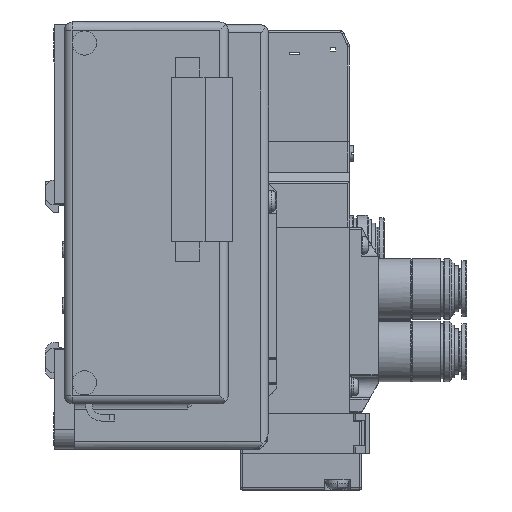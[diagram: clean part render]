
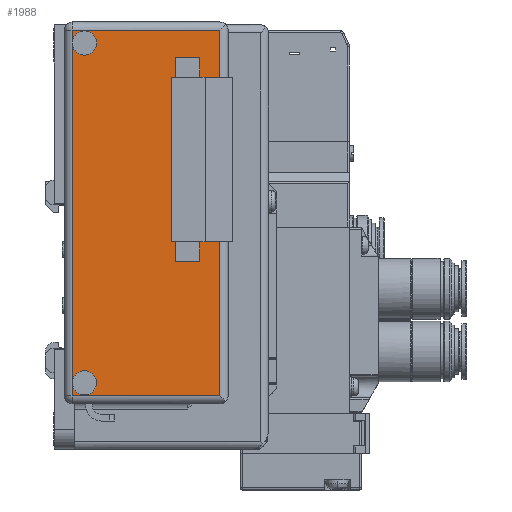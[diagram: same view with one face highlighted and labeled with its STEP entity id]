
A CAD part, left-side view. The second image highlights one B-rep face of the part: STEP entity #1988.
In plain terms, the highlighted planar face has unit normal (-1, 0, 0).
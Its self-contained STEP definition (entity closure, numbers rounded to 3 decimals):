
#1988=ADVANCED_FACE('',(#14346,#14347),#14345,.F.);
#14345=PLANE('',#26407);
#14346=FACE_OUTER_BOUND('',#26408,.T.);
#14347=FACE_BOUND('',#26409,.T.);
#26404=CARTESIAN_POINT('',(-50.,-49.65,72.335));
#26405=DIRECTION('',(1.,0.,0.));
#26406=DIRECTION('',(0.,0.,-1.));
#26407=AXIS2_PLACEMENT_3D('',#26404,#26405,#26406);
#26408=EDGE_LOOP('',(#35882,#35883,#35884,#35885,#35886,#35887,#35888,#35889,#35890,#35891,#35892,#35893));
#26409=EDGE_LOOP('',(#35894,#35895,#35896,#35897,#35898,#35899,#35900,#35901));
#35882=ORIENTED_EDGE('',*,*,#41464,.T.);
#35883=ORIENTED_EDGE('',*,*,#41465,.T.);
#35884=ORIENTED_EDGE('',*,*,#41466,.T.);
#35885=ORIENTED_EDGE('',*,*,#41467,.T.);
#35886=ORIENTED_EDGE('',*,*,#41468,.F.);
#35887=ORIENTED_EDGE('',*,*,#41469,.F.);
#35888=ORIENTED_EDGE('',*,*,#41470,.F.);
#35889=ORIENTED_EDGE('',*,*,#41471,.T.);
#35890=ORIENTED_EDGE('',*,*,#41472,.F.);
#35891=ORIENTED_EDGE('',*,*,#41473,.F.);
#35892=ORIENTED_EDGE('',*,*,#41474,.F.);
#35893=ORIENTED_EDGE('',*,*,#41475,.T.);
#35894=ORIENTED_EDGE('',*,*,#41476,.F.);
#35895=ORIENTED_EDGE('',*,*,#41477,.T.);
#35896=ORIENTED_EDGE('',*,*,#41478,.T.);
#35897=ORIENTED_EDGE('',*,*,#41479,.T.);
#35898=ORIENTED_EDGE('',*,*,#41480,.F.);
#35899=ORIENTED_EDGE('',*,*,#41481,.T.);
#35900=ORIENTED_EDGE('',*,*,#41482,.T.);
#35901=ORIENTED_EDGE('',*,*,#41483,.F.);
#41464=EDGE_CURVE('',#63380,#63381,#63382,.T.);
#41465=EDGE_CURVE('',#63381,#63388,#63389,.T.);
#41466=EDGE_CURVE('',#63388,#63395,#63396,.T.);
#41467=EDGE_CURVE('',#63395,#63402,#63403,.T.);
#41468=EDGE_CURVE('',#63409,#63402,#63410,.T.);
#41469=EDGE_CURVE('',#63416,#63409,#63417,.T.);
#41470=EDGE_CURVE('',#63402,#63416,#63423,.T.);
#41471=EDGE_CURVE('',#63402,#63429,#63430,.T.);
#41472=EDGE_CURVE('',#63436,#63429,#63437,.T.);
#41473=EDGE_CURVE('',#63443,#63436,#63444,.T.);
#41474=EDGE_CURVE('',#63429,#63443,#63450,.T.);
#41475=EDGE_CURVE('',#63429,#63380,#63456,.T.);
#41476=EDGE_CURVE('',#63462,#63463,#63464,.T.);
#41477=EDGE_CURVE('',#63462,#63470,#63471,.T.);
#41478=EDGE_CURVE('',#63470,#63477,#63478,.T.);
#41479=EDGE_CURVE('',#63477,#63484,#63485,.T.);
#41480=EDGE_CURVE('',#63491,#63484,#63492,.T.);
#41481=EDGE_CURVE('',#63491,#63498,#63499,.T.);
#41482=EDGE_CURVE('',#63498,#63505,#63506,.T.);
#41483=EDGE_CURVE('',#63463,#63505,#63512,.T.);
#63380=VERTEX_POINT('',#83593);
#63381=VERTEX_POINT('',#83594);
#63382=LINE('',#83595,#83596);
#63388=VERTEX_POINT('',#83598);
#63389=LINE('',#83599,#83600);
#63395=VERTEX_POINT('',#83602);
#63396=LINE('',#83603,#83604);
#63402=VERTEX_POINT('',#83606);
#63403=LINE('',#83607,#83608);
#63409=VERTEX_POINT('',#83610);
#63410=CIRCLE('',#83614,3.);
#63416=VERTEX_POINT('',#83615);
#63417=CIRCLE('',#83619,3.);
#63423=CIRCLE('',#83623,3.);
#63429=VERTEX_POINT('',#83624);
#63430=LINE('',#83625,#83626);
#63436=VERTEX_POINT('',#83628);
#63437=CIRCLE('',#83632,3.);
#63443=VERTEX_POINT('',#83633);
#63444=CIRCLE('',#83637,3.);
#63450=CIRCLE('',#83641,3.);
#63456=LINE('',#83642,#83643);
#63462=VERTEX_POINT('',#83645);
#63463=VERTEX_POINT('',#83646);
#63464=LINE('',#83647,#83648);
#63470=VERTEX_POINT('',#83650);
#63471=LINE('',#83651,#83652);
#63477=VERTEX_POINT('',#83654);
#63478=LINE('',#83655,#83656);
#63484=VERTEX_POINT('',#83658);
#63485=LINE('',#83659,#83660);
#63491=VERTEX_POINT('',#83662);
#63492=LINE('',#83663,#83664);
#63498=VERTEX_POINT('',#83666);
#63499=LINE('',#83667,#83668);
#63505=VERTEX_POINT('',#83670);
#63506=LINE('',#83671,#83672);
#63512=LINE('',#83674,#83675);
#83593=CARTESIAN_POINT('',(-50.,-9.5,-29.5));
#83594=CARTESIAN_POINT('',(-50.,-46.,-29.5));
#83595=CARTESIAN_POINT('',(-50.,-9.5,-29.5));
#83596=VECTOR('',#83597,36.5);
#83597=DIRECTION('',(0.,-1.,0.));
#83598=CARTESIAN_POINT('',(-50.,-46.,60.9));
#83599=CARTESIAN_POINT('',(-50.,-46.,-29.5));
#83600=VECTOR('',#83601,90.4);
#83601=DIRECTION('',(0.,0.,1.));
#83602=CARTESIAN_POINT('',(-50.,-9.5,60.9));
#83603=CARTESIAN_POINT('',(-50.,-46.,60.9));
#83604=VECTOR('',#83605,36.5);
#83605=DIRECTION('',(0.,1.,0.));
#83606=CARTESIAN_POINT('',(-50.,-9.5,57.7));
#83607=CARTESIAN_POINT('',(-50.,-9.5,60.9));
#83608=VECTOR('',#83609,3.2);
#83609=DIRECTION('',(0.,0.,-1.));
#83610=CARTESIAN_POINT('',(-50.,-12.5,60.7));
#83611=CARTESIAN_POINT('',(-50.,-12.5,57.7));
#83612=DIRECTION('',(-1.,0.,0.));
#83613=DIRECTION('',(0.,1.,0.));
#83614=AXIS2_PLACEMENT_3D('',#83611,#83612,#83613);
#83615=CARTESIAN_POINT('',(-50.,-12.5,54.7));
#83616=CARTESIAN_POINT('',(-50.,-12.5,57.7));
#83617=DIRECTION('',(-1.,0.,0.));
#83618=DIRECTION('',(0.,1.,0.));
#83619=AXIS2_PLACEMENT_3D('',#83616,#83617,#83618);
#83620=CARTESIAN_POINT('',(-50.,-12.5,57.7));
#83621=DIRECTION('',(-1.,0.,0.));
#83622=DIRECTION('',(0.,1.,0.));
#83623=AXIS2_PLACEMENT_3D('',#83620,#83621,#83622);
#83624=CARTESIAN_POINT('',(-50.,-9.5,-26.3));
#83625=CARTESIAN_POINT('',(-50.,-9.5,57.7));
#83626=VECTOR('',#83627,84.);
#83627=DIRECTION('',(0.,0.,-1.));
#83628=CARTESIAN_POINT('',(-50.,-12.5,-23.3));
#83629=CARTESIAN_POINT('',(-50.,-12.5,-26.3));
#83630=DIRECTION('',(-1.,0.,0.));
#83631=DIRECTION('',(0.,1.,0.));
#83632=AXIS2_PLACEMENT_3D('',#83629,#83630,#83631);
#83633=CARTESIAN_POINT('',(-50.,-12.5,-29.3));
#83634=CARTESIAN_POINT('',(-50.,-12.5,-26.3));
#83635=DIRECTION('',(-1.,0.,0.));
#83636=DIRECTION('',(0.,1.,0.));
#83637=AXIS2_PLACEMENT_3D('',#83634,#83635,#83636);
#83638=CARTESIAN_POINT('',(-50.,-12.5,-26.3));
#83639=DIRECTION('',(-1.,0.,0.));
#83640=DIRECTION('',(0.,1.,0.));
#83641=AXIS2_PLACEMENT_3D('',#83638,#83639,#83640);
#83642=CARTESIAN_POINT('',(-50.,-9.5,-26.3));
#83643=VECTOR('',#83644,3.2);
#83644=DIRECTION('',(0.,0.,-1.));
#83645=CARTESIAN_POINT('',(-50.,-41.,54.12));
#83646=CARTESIAN_POINT('',(-50.,-35.,54.12));
#83647=CARTESIAN_POINT('',(-50.,-41.,54.12));
#83648=VECTOR('',#83649,6.);
#83649=DIRECTION('',(0.,1.,0.));
#83650=CARTESIAN_POINT('',(-50.,-41.,49.22));
#83651=CARTESIAN_POINT('',(-50.,-41.,54.12));
#83652=VECTOR('',#83653,4.9);
#83653=DIRECTION('',(0.,0.,-1.));
#83654=CARTESIAN_POINT('',(-50.,-44.5,49.22));
#83655=CARTESIAN_POINT('',(-50.,-41.,49.22));
#83656=VECTOR('',#83657,3.5);
#83657=DIRECTION('',(0.,-1.,0.));
#83658=CARTESIAN_POINT('',(-50.,-44.5,8.58));
#83659=CARTESIAN_POINT('',(-50.,-44.5,49.22));
#83660=VECTOR('',#83661,40.64);
#83661=DIRECTION('',(0.,0.,-1.));
#83662=CARTESIAN_POINT('',(-50.,-41.,8.58));
#83663=CARTESIAN_POINT('',(-50.,-41.,8.58));
#83664=VECTOR('',#83665,3.5);
#83665=DIRECTION('',(0.,-1.,0.));
#83666=CARTESIAN_POINT('',(-50.,-41.,3.68));
#83667=CARTESIAN_POINT('',(-50.,-41.,8.58));
#83668=VECTOR('',#83669,4.9);
#83669=DIRECTION('',(0.,0.,-1.));
#83670=CARTESIAN_POINT('',(-50.,-35.,3.68));
#83671=CARTESIAN_POINT('',(-50.,-41.,3.68));
#83672=VECTOR('',#83673,6.);
#83673=DIRECTION('',(0.,1.,0.));
#83674=CARTESIAN_POINT('',(-50.,-35.,54.12));
#83675=VECTOR('',#83676,50.44);
#83676=DIRECTION('',(0.,0.,-1.));
